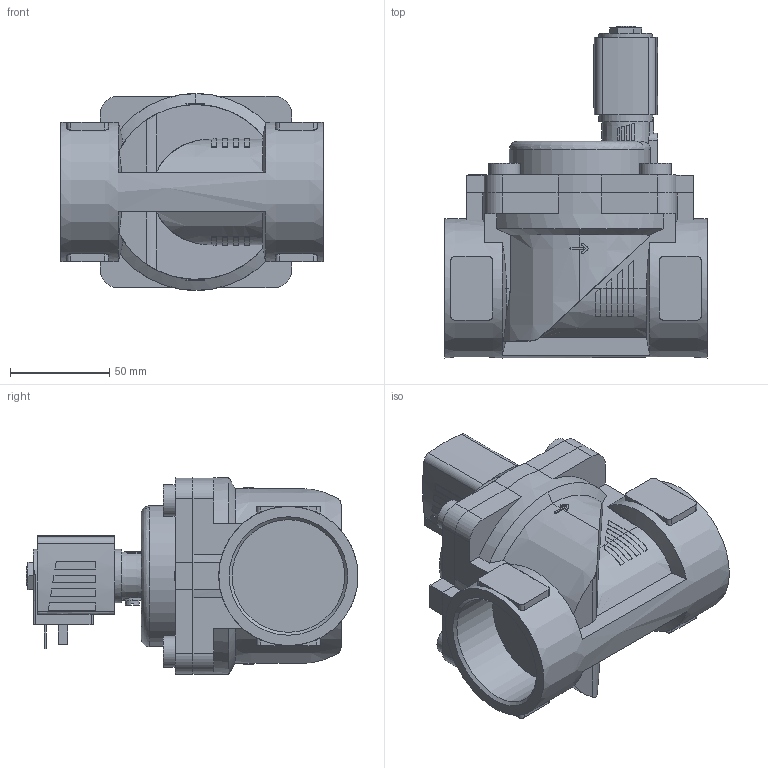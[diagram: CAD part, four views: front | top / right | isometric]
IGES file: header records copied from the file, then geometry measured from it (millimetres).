
Start section: Data from Parasolid IGES Translator 26.0.171, Copyright(c) 2006 Siemens PLM Software. All Rights Reserved.
Global section: file name: 6281-357324-2_2-Way_Solenoid_Valve__Servo-assisted__General_Purpose.igs; native system: By Siemens PLM Incorporated; preprocessor: XPlus GENERIC/IGES 26.0.171; author: Noname; organization: Noname; date: 20240906.100339; units: millimetre
Bounding box: 132 x 167 x 99 mm (x, y, z)
Surface area: 102682.7 mm2 (no closed solid volume)
Topology: 0 solids, 0 shells, 381 faces, 2036 edges, 2029 vertices
Faces by surface type: extrusion 251, revolution 130
